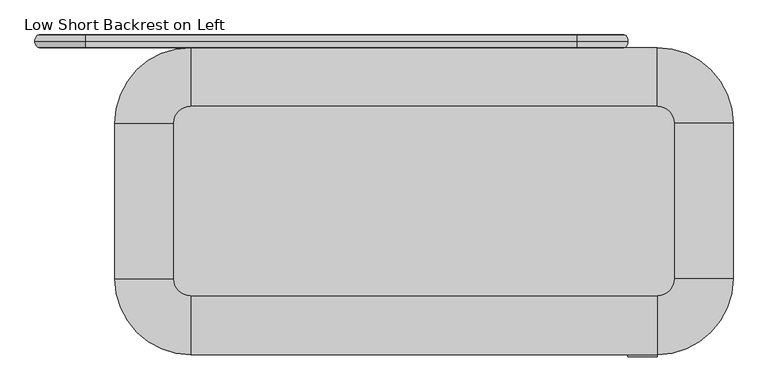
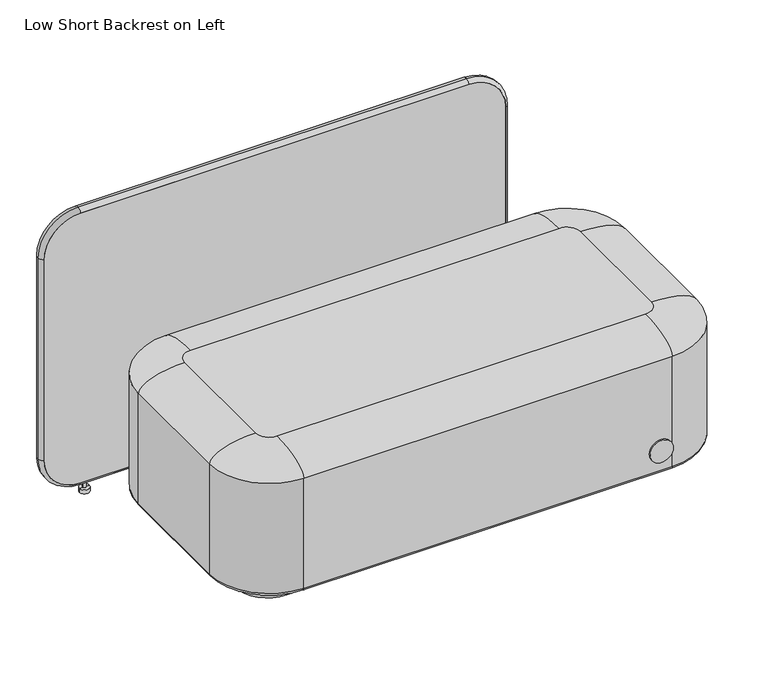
"""IFC4 building model written with IfcOpenShell, lengths in millimetres: furniture geometry, PODLounge  : Low Short Backrest on Left."""

from ifc_helpers import new_model, si_unit, point, frame, frame_2d, origin, origin_with_axes, place, context, project, spatial, polyline, circle_curve, ellipse_curve, trimmed, segment, composite_curve, outline, extrude, source, transform, mapped, element, save
from ifc_brep_helpers import plane_surface, cylinder_surface, revolved_surface, extruded_surface, advanced_brep


def low_short_backrest_on_left_eda2dfa0(model_context):
    return source(origin(), model_context, "Body", "SolidModel", [
        advanced_brep(
        [(-769.9999916, 380.0, 12.0), (-800.0000084, 380.0, 12.0), (-790.0, 380.0, 12.0), (-780.0, 380.0, 12.0), (-790.0, 380.0, 37.4784241), (-780.0, 380.0, 37.4784241), (-785.0, 380.0, 37.4784241), (-785.0, 380.0, 0.0), (-800.0000084, 380.0, 0.0), (-769.9999916, 380.0, 0.0)],
        [
            (0, 1, circle_curve(frame((-785.0, 380.0, 12.0), z_axis=(0.0, 0.0, 1.0), x_axis=(-1.0, 0.0, 0.0)), 15.0000084)),
            (1, 2),
            (2, 3, circle_curve(frame((-785.0, 380.0, 12.0), z_axis=(0.0, 0.0, -1.0), x_axis=(-1.0, 0.0, 0.0)), 5.0)),
            (3, 0),
            (1, 0, circle_curve(frame((-785.0, 380.0, 12.0), z_axis=(0.0, 0.0, 1.0), x_axis=(-1.0, 0.0, 0.0)), 15.0000084)),
            (3, 2, circle_curve(frame((-785.0, 380.0, 12.0), z_axis=(0.0, 0.0, -1.0), x_axis=(-1.0, 0.0, 0.0)), 5.0)),
            (2, 4),
            (4, 5, circle_curve(frame((-785.0, 380.0, 37.4784241), z_axis=(0.0, 0.0, -1.0), x_axis=(-1.0, 0.0, 0.0)), 5.0)),
            (5, 3),
            (5, 4, circle_curve(frame((-785.0, 380.0, 37.4784241), z_axis=(0.0, 0.0, -1.0), x_axis=(-1.0, 0.0, 0.0)), 5.0)),
            (4, 6),
            (6, 5),
            (7, 8),
            (8, 9, circle_curve(frame((-785.0, 380.0, 0.0), z_axis=(0.0, 0.0, -1.0), x_axis=(-1.0, 0.0, 0.0)), 15.0000084)),
            (9, 7),
            (9, 8, circle_curve(frame((-785.0, 380.0, 0.0), z_axis=(0.0, 0.0, -1.0), x_axis=(-1.0, 0.0, 0.0)), 15.0000084)),
            (8, 1),
            (0, 9),
        ],
        [
            plane_surface(frame((-785.0, 380.0, 12.0), z_axis=(0.0, 0.0, 1.0), x_axis=(-1.0, 0.0, 0.0))),
            cylinder_surface(frame((-785.0, 380.0, 37.4784241), z_axis=(0.0, 0.0, -1.0), x_axis=(-1.0, 0.0, 0.0)), 5.0),
            plane_surface(frame((-785.0, 380.0, 37.4784241), z_axis=(0.0, 0.0, 1.0), x_axis=(-1.0, 0.0, 0.0))),
            plane_surface(frame((-785.0, 380.0, 0.0), z_axis=(0.0, 0.0, -1.0), x_axis=(-1.0, 0.0, 0.0))),
            cylinder_surface(frame((-785.0, 380.0, 37.4784241), z_axis=(0.0, 0.0, -1.0), x_axis=(-1.0, 0.0, 0.0)), 15.0000084),
        ],
        [
            (0, [[1, 2, 3, 4]]),
            (0, [[5, -4, 6, -2]]),
            (1, [[-3, 7, 8, 9]]),
            (1, [[-6, -9, 10, -7]]),
            (2, [[-8, 11, 12]]),
            (2, [[-10, -12, -11]]),
            (3, [[13, 14, 15]]),
            (3, [[-15, 16, -13]]),
            (4, [[-14, 17, -1, 18]]),
            (4, [[-16, -18, -5, -17]]),
        ],
    ),
        advanced_brep(
        [(329.9999916, 380.0, 12.0), (340.0, 380.0, 12.0), (350.0, 380.0, 12.0), (360.0000084, 380.0, 12.0), (340.0, 380.0, 37.4784241), (350.0, 380.0, 37.4784241), (345.0, 380.0, 37.4784241), (345.0, 380.0, 0.0), (329.9999916, 380.0, 0.0), (360.0000084, 380.0, 0.0)],
        [
            (0, 1),
            (1, 2, circle_curve(frame((345.0, 380.0, 12.0), z_axis=(0.0, 0.0, -1.0), x_axis=(1.0, 0.0, 0.0)), 5.0)),
            (2, 3),
            (3, 0, circle_curve(frame((345.0, 380.0, 12.0), z_axis=(0.0, 0.0, 1.0), x_axis=(1.0, 0.0, 0.0)), 15.0000084)),
            (2, 1, circle_curve(frame((345.0, 380.0, 12.0), z_axis=(0.0, 0.0, -1.0), x_axis=(1.0, 0.0, 0.0)), 5.0)),
            (0, 3, circle_curve(frame((345.0, 380.0, 12.0), z_axis=(0.0, 0.0, 1.0), x_axis=(1.0, 0.0, 0.0)), 15.0000084)),
            (1, 4),
            (4, 5, circle_curve(frame((345.0, 380.0, 37.4784241), z_axis=(0.0, 0.0, -1.0), x_axis=(1.0, 0.0, 0.0)), 5.0)),
            (5, 2),
            (5, 4, circle_curve(frame((345.0, 380.0, 37.4784241), z_axis=(0.0, 0.0, -1.0), x_axis=(1.0, 0.0, 0.0)), 5.0)),
            (4, 6),
            (6, 5),
            (7, 8),
            (8, 9, circle_curve(frame((345.0, 380.0, 0.0), z_axis=(0.0, 0.0, -1.0), x_axis=(1.0, 0.0, 0.0)), 15.0000084)),
            (9, 7),
            (9, 8, circle_curve(frame((345.0, 380.0, 0.0), z_axis=(0.0, 0.0, -1.0), x_axis=(1.0, 0.0, 0.0)), 15.0000084)),
            (8, 0),
            (3, 9),
        ],
        [
            plane_surface(frame((345.0, 380.0, 12.0), z_axis=(0.0, 0.0, 1.0), x_axis=(1.0, 0.0, 0.0))),
            cylinder_surface(frame((345.0, 380.0, 37.4784241), z_axis=(0.0, 0.0, -1.0), x_axis=(1.0, 0.0, 0.0)), 5.0),
            plane_surface(frame((345.0, 380.0, 37.4784241), z_axis=(0.0, 0.0, 1.0), x_axis=(1.0, 0.0, 0.0))),
            plane_surface(frame((345.0, 380.0, 0.0), z_axis=(0.0, 0.0, -1.0), x_axis=(1.0, 0.0, 0.0))),
            cylinder_surface(frame((345.0, 380.0, 37.4784241), z_axis=(0.0, 0.0, -1.0), x_axis=(1.0, 0.0, 0.0)), 15.0000084),
        ],
        [
            (0, [[1, 2, 3, 4]]),
            (0, [[-3, 5, -1, 6]]),
            (1, [[7, 8, 9, -2]]),
            (1, [[-9, 10, -7, -5]]),
            (2, [[11, 12, -8]]),
            (2, [[-12, -11, -10]]),
            (3, [[13, 14, 15]]),
            (3, [[-15, 16, -13]]),
            (4, [[17, -4, 18, -14]]),
            (4, [[-18, -6, -17, -16]]),
        ],
    ),
        advanced_brep(
        [(475.0, 395.0, 790.0), (475.0, 365.0, 790.0), (365.0, 365.0, 900.0), (365.0, 395.0, 900.0), (475.0, 395.0, 150.0), (475.0, 365.0, 150.0), (365.0, 395.0, 40.0), (365.0, 365.0, 40.0), (-805.0, 395.0, 40.0), (-805.0, 365.0, 40.0), (-915.0, 395.0, 150.0), (-915.0, 365.0, 150.0), (-915.0, 395.0, 790.0), (-915.0, 365.0, 790.0), (-805.0, 395.0, 900.0), (-805.0, 365.0, 900.0), (484.9992342, 379.8143612, 790.0), (365.0, 379.8143612, 909.9992342), (484.9992342, 379.8143612, 150.0), (365.0, 379.8143612, 30.0007658), (-805.0, 379.8143612, 30.0007658), (-924.9992342, 379.8143612, 150.0), (-924.9992342, 379.8143612, 790.0), (-805.0, 379.8143612, 909.9992342)],
        [
            (0, 1),
            (1, 2, circle_curve(frame((365.0, 365.0, 790.0), z_axis=(0.0, -1.0, 0.0), x_axis=(0.0, 0.0, 1.0)), 110.0)),
            (2, 3),
            (3, 0, circle_curve(frame((365.0, 395.0, 790.0), z_axis=(0.0, 1.0, 0.0), x_axis=(0.0, 0.0, 1.0)), 110.0)),
            (0, 4),
            (4, 5),
            (5, 1),
            (6, 7),
            (7, 5, circle_curve(frame((365.0, 365.0, 150.0), z_axis=(0.0, -1.0, 0.0), x_axis=(1.0, 0.0, 0.0)), 110.0)),
            (4, 6, circle_curve(frame((365.0, 395.0, 150.0), z_axis=(0.0, 1.0, 0.0), x_axis=(1.0, 0.0, 0.0)), 110.0)),
            (6, 8),
            (8, 9),
            (9, 7),
            (10, 11),
            (11, 9, circle_curve(frame((-805.0, 365.0, 150.0), z_axis=(0.0, -1.0, 0.0), x_axis=(0.0, 0.0, -1.0)), 110.0)),
            (8, 10, circle_curve(frame((-805.0, 395.0, 150.0), z_axis=(0.0, 1.0, 0.0), x_axis=(0.0, 0.0, -1.0)), 110.0)),
            (10, 12),
            (12, 13),
            (13, 11),
            (14, 15),
            (15, 13, circle_curve(frame((-805.0, 365.0, 790.0), z_axis=(0.0, -1.0, 0.0), x_axis=(-1.0, 0.0, 0.0)), 110.0)),
            (12, 14, circle_curve(frame((-805.0, 395.0, 790.0), z_axis=(0.0, 1.0, 0.0), x_axis=(-1.0, 0.0, 0.0)), 110.0)),
            (14, 3),
            (2, 15),
            (16, 0, ellipse_curve(frame((475.0, 380.0, 790.0), z_axis=(0.0, 0.0, 1.0), x_axis=(0.0, 1.0, 0.0)), 15.0, 10.0)),
            (3, 17, ellipse_curve(frame((365.0, 380.0, 900.0), z_axis=(1.0, 0.0, 0.0), x_axis=(0.0, 1.0, 0.0)), 15.0, 10.0)),
            (17, 16, circle_curve(frame((365.0, 379.8143612, 790.0), z_axis=(0.0, 1.0, 0.0), x_axis=(0.0, 0.0, 1.0)), 119.9992342)),
            (1, 16, ellipse_curve(frame((475.0, 380.0, 790.0), z_axis=(0.0, 0.0, 1.0), x_axis=(0.0, 1.0, 0.0)), 15.0, 10.0)),
            (17, 2, ellipse_curve(frame((365.0, 380.0, 900.0), z_axis=(1.0, 0.0, 0.0), x_axis=(0.0, 1.0, 0.0)), 15.0, 10.0)),
            (16, 18),
            (18, 4, ellipse_curve(frame((475.0, 380.0, 150.0), z_axis=(0.0, 0.0, 1.0), x_axis=(0.0, 1.0, 0.0)), 15.0, 10.0)),
            (5, 18, ellipse_curve(frame((475.0, 380.0, 150.0), z_axis=(0.0, 0.0, 1.0), x_axis=(0.0, 1.0, 0.0)), 15.0, 10.0)),
            (19, 6, ellipse_curve(frame((365.0, 380.0, 40.0), z_axis=(1.0, 0.0, 0.0), x_axis=(0.0, 1.0, 0.0)), 15.0, 10.0)),
            (18, 19, circle_curve(frame((365.0, 379.8143612, 150.0), z_axis=(0.0, 1.0, 0.0), x_axis=(1.0, 0.0, 0.0)), 119.9992342)),
            (7, 19, ellipse_curve(frame((365.0, 380.0, 40.0), z_axis=(1.0, 0.0, 0.0), x_axis=(0.0, 1.0, 0.0)), 15.0, 10.0)),
            (19, 20),
            (20, 8, ellipse_curve(frame((-805.0, 380.0, 40.0), z_axis=(1.0, 0.0, 0.0), x_axis=(0.0, 1.0, 0.0)), 15.0, 10.0)),
            (9, 20, ellipse_curve(frame((-805.0, 380.0, 40.0), z_axis=(1.0, 0.0, 0.0), x_axis=(0.0, 1.0, 0.0)), 15.0, 10.0)),
            (21, 10, ellipse_curve(frame((-915.0, 380.0, 150.0), z_axis=(0.0, 0.0, -1.0), x_axis=(0.0, 1.0, 0.0)), 15.0, 10.0)),
            (20, 21, circle_curve(frame((-805.0, 379.8143612, 150.0), z_axis=(0.0, 1.0, 0.0), x_axis=(0.0, 0.0, -1.0)), 119.9992342)),
            (11, 21, ellipse_curve(frame((-915.0, 380.0, 150.0), z_axis=(0.0, 0.0, -1.0), x_axis=(0.0, 1.0, 0.0)), 15.0, 10.0)),
            (21, 22),
            (22, 12, ellipse_curve(frame((-915.0, 380.0, 790.0), z_axis=(0.0, 0.0, -1.0), x_axis=(0.0, 1.0, 0.0)), 15.0, 10.0)),
            (13, 22, ellipse_curve(frame((-915.0, 380.0, 790.0), z_axis=(0.0, 0.0, -1.0), x_axis=(0.0, 1.0, 0.0)), 15.0, 10.0)),
            (23, 14, ellipse_curve(frame((-805.0, 380.0, 900.0), z_axis=(-1.0, 0.0, 0.0), x_axis=(0.0, 1.0, 0.0)), 15.0, 10.0)),
            (22, 23, circle_curve(frame((-805.0, 379.8143612, 790.0), z_axis=(0.0, 1.0, 0.0), x_axis=(-1.0, 0.0, 0.0)), 119.9992342)),
            (15, 23, ellipse_curve(frame((-805.0, 380.0, 900.0), z_axis=(-1.0, 0.0, 0.0), x_axis=(0.0, 1.0, 0.0)), 15.0, 10.0)),
            (23, 17),
        ],
        [
            revolved_surface(polyline([(365.0, 365.0, 900.0), (365.0, 395.0, 900.0)]), (365.0, 395.0, 790.0), (0.0, -1.0, 0.0)),
            plane_surface(frame((475.0, 365.0, 790.0), z_axis=(-1.0, 0.0, 0.0), x_axis=(0.0, 0.0, -1.0))),
            revolved_surface(polyline([(475.0, 365.0, 150.0), (475.0, 395.0, 150.0)]), (365.0, 395.0, 150.0), (0.0, -1.0, 0.0)),
            plane_surface(frame((365.0, 365.0, 40.0), z_axis=(0.0, 0.0, 1.0), x_axis=(-1.0, 0.0, 0.0))),
            revolved_surface(polyline([(-805.0, 365.0, 40.0), (-805.0, 395.0, 40.0)]), (-805.0, 395.0, 150.0), (0.0, -1.0, 0.0)),
            plane_surface(frame((-915.0, 365.0, 150.0), z_axis=(1.0, 0.0, 0.0), x_axis=(0.0, 0.0, 1.0))),
            revolved_surface(polyline([(-915.0, 365.0, 790.0), (-915.0, 395.0, 790.0)]), (-805.0, 395.0, 790.0), (0.0, -1.0, 0.0)),
            plane_surface(frame((-805.0, 365.0, 900.0), z_axis=(0.0, 0.0, -1.0), x_axis=(1.0, 0.0, 0.0))),
            revolved_surface(trimmed(ellipse_curve(frame((365.0, 380.0, 900.0), z_axis=(1.0, 0.0, 0.0), x_axis=(0.0, 1.0, 0.0)), 15.0, 10.0), [point((365.0, 395.0, 900.0))], [point((365.0, 379.8143612, 909.9992342))], True, "CARTESIAN"), (365.0, 395.0, 790.0), (0.0, -1.0, 0.0)),
            revolved_surface(trimmed(ellipse_curve(frame((365.0, 380.0, 900.0), z_axis=(1.0, 0.0, 0.0), x_axis=(0.0, 1.0, 0.0)), 15.0, 10.0), [point((365.0, 379.8143612, 909.9992342))], [point((365.0, 365.0, 900.0))], True, "CARTESIAN"), (365.0, 395.0, 790.0), (0.0, -1.0, 0.0)),
            extruded_surface(trimmed(ellipse_curve(frame((475.0, 380.0, 790.0), z_axis=(0.0, 0.0, -1.0), x_axis=(0.0, 1.0, 0.0)), 15.0, 10.0), [point((475.0, 395.0, 790.0))], [point((484.9992342, 379.8143612, 790.0))], True, "CARTESIAN"), (0.0, 0.0, -640.0), 640.0),
            extruded_surface(trimmed(ellipse_curve(frame((475.0, 380.0, 790.0), z_axis=(0.0, 0.0, -1.0), x_axis=(0.0, 1.0, 0.0)), 15.0, 10.0), [point((484.9992342, 379.8143612, 790.0))], [point((475.0, 365.0, 790.0))], True, "CARTESIAN"), (0.0, 0.0, -640.0), 640.0),
            revolved_surface(trimmed(ellipse_curve(frame((475.0, 380.0, 150.0), z_axis=(0.0, 0.0, -1.0), x_axis=(0.0, 1.0, 0.0)), 15.0, 10.0), [point((475.0, 395.0, 150.0))], [point((484.9992342, 379.8143612, 150.0))], True, "CARTESIAN"), (365.0, 395.0, 150.0), (0.0, -1.0, 0.0)),
            revolved_surface(trimmed(ellipse_curve(frame((475.0, 380.0, 150.0), z_axis=(0.0, 0.0, -1.0), x_axis=(0.0, 1.0, 0.0)), 15.0, 10.0), [point((484.9992342, 379.8143612, 150.0))], [point((475.0, 365.0, 150.0))], True, "CARTESIAN"), (365.0, 395.0, 150.0), (0.0, -1.0, 0.0)),
            extruded_surface(trimmed(ellipse_curve(frame((365.0, 380.0, 40.0), z_axis=(-1.0, 0.0, 0.0), x_axis=(0.0, 1.0, 0.0)), 15.0, 10.0), [point((365.0, 395.0, 40.0))], [point((365.0, 379.8143612, 30.0007658))], True, "CARTESIAN"), (-1170.0, 0.0, 0.0), 1170.0),
            extruded_surface(trimmed(ellipse_curve(frame((365.0, 380.0, 40.0), z_axis=(-1.0, 0.0, 0.0), x_axis=(0.0, 1.0, 0.0)), 15.0, 10.0), [point((365.0, 379.8143612, 30.0007658))], [point((365.0, 365.0, 40.0))], True, "CARTESIAN"), (-1170.0, 0.0, 0.0), 1170.0),
            revolved_surface(trimmed(ellipse_curve(frame((-805.0, 380.0, 40.0), z_axis=(-1.0, 0.0, 0.0), x_axis=(0.0, 1.0, 0.0)), 15.0, 10.0), [point((-805.0, 395.0, 40.0))], [point((-805.0, 379.8143612, 30.0007658))], True, "CARTESIAN"), (-805.0, 395.0, 150.0), (0.0, -1.0, 0.0)),
            revolved_surface(trimmed(ellipse_curve(frame((-805.0, 380.0, 40.0), z_axis=(-1.0, 0.0, 0.0), x_axis=(0.0, 1.0, 0.0)), 15.0, 10.0), [point((-805.0, 379.8143612, 30.0007658))], [point((-805.0, 365.0, 40.0))], True, "CARTESIAN"), (-805.0, 395.0, 150.0), (0.0, -1.0, 0.0)),
            extruded_surface(trimmed(ellipse_curve(frame((-915.0, 380.0, 150.0), z_axis=(0.0, 0.0, 1.0), x_axis=(0.0, 1.0, 0.0)), 15.0, 10.0), [point((-915.0, 395.0, 150.0))], [point((-924.9992342, 379.8143612, 150.0))], True, "CARTESIAN"), (0.0, 0.0, 640.0), 640.0),
            extruded_surface(trimmed(ellipse_curve(frame((-915.0, 380.0, 150.0), z_axis=(0.0, 0.0, 1.0), x_axis=(0.0, 1.0, 0.0)), 15.0, 10.0), [point((-924.9992342, 379.8143612, 150.0))], [point((-915.0, 365.0, 150.0))], True, "CARTESIAN"), (0.0, 0.0, 640.0), 640.0),
            revolved_surface(trimmed(ellipse_curve(frame((-915.0, 380.0, 790.0), z_axis=(0.0, 0.0, 1.0), x_axis=(0.0, 1.0, 0.0)), 15.0, 10.0), [point((-915.0, 395.0, 790.0))], [point((-924.9992342, 379.8143612, 790.0))], True, "CARTESIAN"), (-805.0, 395.0, 790.0), (0.0, -1.0, 0.0)),
            revolved_surface(trimmed(ellipse_curve(frame((-915.0, 380.0, 790.0), z_axis=(0.0, 0.0, 1.0), x_axis=(0.0, 1.0, 0.0)), 15.0, 10.0), [point((-924.9992342, 379.8143612, 790.0))], [point((-915.0, 365.0, 790.0))], True, "CARTESIAN"), (-805.0, 395.0, 790.0), (0.0, -1.0, 0.0)),
            extruded_surface(trimmed(ellipse_curve(frame((-805.0, 380.0, 900.0), z_axis=(1.0, 0.0, 0.0), x_axis=(0.0, 1.0, 0.0)), 15.0, 10.0), [point((-805.0, 395.0, 900.0))], [point((-805.0, 379.8143612, 909.9992342))], True, "CARTESIAN"), (1170.0, 0.0, 0.0), 1170.0),
            extruded_surface(trimmed(ellipse_curve(frame((-805.0, 380.0, 900.0), z_axis=(1.0, 0.0, 0.0), x_axis=(0.0, 1.0, 0.0)), 15.0, 10.0), [point((-805.0, 379.8143612, 909.9992342))], [point((-805.0, 365.0, 900.0))], True, "CARTESIAN"), (1170.0, 0.0, 0.0), 1170.0),
        ],
        [
            (0, [[1, 2, 3, 4]]),
            (1, [[5, 6, 7, -1]]),
            (2, [[8, 9, -6, 10]]),
            (3, [[11, 12, 13, -8]]),
            (4, [[14, 15, -12, 16]]),
            (5, [[17, 18, 19, -14]]),
            (6, [[20, 21, -18, 22]]),
            (7, [[23, -3, 24, -20]]),
            (8, [[25, -4, 26, 27]]),
            (9, [[28, -27, 29, -2]]),
            (10, [[30, 31, -5, -25]]),
            (11, [[-7, 32, -30, -28]]),
            (12, [[33, -10, -31, 34]]),
            (13, [[35, -34, -32, -9]]),
            (14, [[36, 37, -11, -33]]),
            (15, [[-13, 38, -36, -35]]),
            (16, [[39, -16, -37, 40]]),
            (17, [[41, -40, -38, -15]]),
            (18, [[42, 43, -17, -39]]),
            (19, [[-19, 44, -42, -41]]),
            (20, [[45, -22, -43, 46]]),
            (21, [[47, -46, -44, -21]]),
            (22, [[48, -26, -23, -45]]),
            (23, [[-24, -29, -48, -47]]),
        ],
    ),
        extrude(outline(composite_curve([segment(polyline([(900.0, 365.0), (900.0, -805.0)]), True, "CONTINUOUS"), segment(trimmed(circle_curve(frame_2d((790.0, -805.0)), 110.0), [point((900.0, -805.0))], [point((790.0, -915.0))], False, "CARTESIAN"), True, "CONTINUOUS"), segment(polyline([(790.0, -915.0), (150.0, -915.0)]), True, "CONTINUOUS"), segment(trimmed(circle_curve(frame_2d((150.0, -805.0)), 110.0), [point((150.0, -915.0))], [point((40.0, -805.0))], False, "CARTESIAN"), True, "CONTINUOUS"), segment(polyline([(40.0, -805.0), (40.0, 365.0)]), True, "CONTINUOUS"), segment(trimmed(circle_curve(frame_2d((150.0, 365.0)), 110.0), [point((40.0, 365.0))], [point((150.0, 475.0))], False, "CARTESIAN"), True, "CONTINUOUS"), segment(polyline([(150.0, 475.0), (790.0, 475.0)]), True, "CONTINUOUS"), segment(trimmed(circle_curve(frame_2d((790.0, 365.0)), 110.0), [point((790.0, 475.0))], [point((900.0, 365.0))], False, "CARTESIAN"), True, "CONTINUOUS")], self_intersect=False)), frame((0.0, 365.0, 0.0), z_axis=(0.0, 1.0, 0.0), x_axis=(0.0, 0.0, 1.0)), (0.0, 0.0, 1.0), 30.0),
        advanced_brep(
        [(-555.0, 225.0, 460.0), (-595.0, 185.0, 460.0), (-595.0, -185.0, 460.0), (-555.0, -225.0, 460.0), (555.0, -225.0, 460.0), (595.0, -185.0, 460.0), (595.0, 185.0, 460.0), (555.0, 225.0, 460.0), (-725.0, 185.0, 50.0), (-555.0, 355.0, 50.0), (555.0, 355.0, 50.0), (725.0, 185.0, 50.0), (725.0, -185.0, 50.0), (555.0, -355.0, 50.0), (-555.0, -355.0, 50.0), (-725.0, -185.0, 50.0), (555.0, -365.0, 410.0), (555.0, -365.0, 60.0), (735.0, -185.0, 60.0), (735.0, -185.0, 410.0), (735.0, 185.0, 60.0), (735.0, 185.0, 410.0), (555.0, 365.0, 60.0), (555.0, 365.0, 410.0), (-555.0, 365.0, 60.0), (-555.0, 365.0, 410.0), (-735.0, 185.0, 410.0), (-735.0, 185.0, 60.0), (-735.0, -185.0, 60.0), (-735.0, -185.0, 410.0), (-555.0, -365.0, 410.0), (-555.0, -365.0, 60.0)],
        [
            (0, 1, circle_curve(frame((-555.0, 185.0, 460.0), z_axis=(0.0, 0.0, 1.0), x_axis=(0.0, 1.0, 0.0)), 40.0)),
            (1, 2),
            (2, 3, circle_curve(frame((-555.0, -185.0, 460.0), z_axis=(0.0, 0.0, 1.0), x_axis=(-1.0, 0.0, 0.0)), 40.0)),
            (3, 4),
            (4, 5, circle_curve(frame((555.0, -185.0, 460.0), z_axis=(0.0, 0.0, 1.0), x_axis=(0.0, -1.0, 0.0)), 40.0)),
            (5, 6),
            (6, 7, circle_curve(frame((555.0, 185.0, 460.0), z_axis=(0.0, 0.0, 1.0), x_axis=(1.0, 0.0, 0.0)), 40.0)),
            (7, 0),
            (8, 9, circle_curve(frame((-555.0, 185.0, 50.0), z_axis=(0.0, 0.0, -1.0), x_axis=(0.0, 1.0, 0.0)), 170.0)),
            (9, 10),
            (10, 11, circle_curve(frame((555.0, 185.0, 50.0), z_axis=(0.0, 0.0, -1.0), x_axis=(1.0, 0.0, 0.0)), 170.0)),
            (11, 12),
            (12, 13, circle_curve(frame((555.0, -185.0, 50.0), z_axis=(0.0, 0.0, -1.0), x_axis=(0.0, -1.0, 0.0)), 170.0)),
            (13, 14),
            (14, 15, circle_curve(frame((-555.0, -185.0, 50.0), z_axis=(0.0, 0.0, -1.0), x_axis=(-1.0, 0.0, 0.0)), 170.0)),
            (15, 8),
            (16, 17),
            (17, 18, circle_curve(frame((555.0, -185.0, 60.0), z_axis=(0.0, 0.0, 1.0), x_axis=(1.0, 0.0, 0.0)), 180.0)),
            (18, 19),
            (19, 16, circle_curve(frame((555.0, -185.0, 410.0), z_axis=(0.0, 0.0, -1.0), x_axis=(1.0, 0.0, 0.0)), 180.0)),
            (18, 20),
            (20, 21),
            (21, 19),
            (20, 22, circle_curve(frame((555.0, 185.0, 60.0), z_axis=(0.0, 0.0, 1.0), x_axis=(1.0, 0.0, 0.0)), 180.0)),
            (22, 23),
            (23, 21, circle_curve(frame((555.0, 185.0, 410.0), z_axis=(0.0, 0.0, -1.0), x_axis=(1.0, 0.0, 0.0)), 180.0)),
            (22, 24),
            (24, 25),
            (25, 23),
            (26, 27),
            (27, 28),
            (28, 29),
            (29, 26),
            (16, 30),
            (30, 31),
            (31, 17),
            (26, 25, circle_curve(frame((-555.0, 185.0, 410.0), z_axis=(0.0, 0.0, -1.0), x_axis=(1.0, 0.0, 0.0)), 180.0)),
            (24, 27, circle_curve(frame((-555.0, 185.0, 60.0), z_axis=(0.0, 0.0, 1.0), x_axis=(1.0, 0.0, 0.0)), 180.0)),
            (30, 29, circle_curve(frame((-555.0, -185.0, 410.0), z_axis=(0.0, 0.0, -1.0), x_axis=(1.0, 0.0, 0.0)), 180.0)),
            (28, 31, circle_curve(frame((-555.0, -185.0, 60.0), z_axis=(0.0, 0.0, 1.0), x_axis=(1.0, 0.0, 0.0)), 180.0)),
            (26, 1, ellipse_curve(frame((-595.0, 185.0, 410.0), z_axis=(0.0, 1.0, 0.0), x_axis=(-1.0, 0.0, 0.0)), 140.0, 50.0)),
            (0, 25, ellipse_curve(frame((-555.0, 225.0, 410.0), z_axis=(-1.0, 0.0, 0.0), x_axis=(0.0, 1.0, 0.0)), 140.0, 50.0)),
            (29, 2, ellipse_curve(frame((-595.0, -185.0, 410.0), z_axis=(0.0, 1.0, 0.0), x_axis=(-1.0, 0.0, 0.0)), 140.0, 50.0)),
            (30, 3, ellipse_curve(frame((-555.0, -225.0, 410.0), z_axis=(-1.0, 0.0, 0.0), x_axis=(0.0, -1.0, 0.0)), 140.0, 50.0)),
            (16, 4, ellipse_curve(frame((555.0, -225.0, 410.0), z_axis=(-1.0, 0.0, 0.0), x_axis=(0.0, -1.0, 0.0)), 140.0, 50.0)),
            (19, 5, ellipse_curve(frame((595.0, -185.0, 410.0), z_axis=(0.0, -1.0, 0.0), x_axis=(1.0, 0.0, 0.0)), 140.0, 50.0)),
            (21, 6, ellipse_curve(frame((595.0, 185.0, 410.0), z_axis=(0.0, -1.0, 0.0), x_axis=(1.0, 0.0, 0.0)), 140.0, 50.0)),
            (23, 7, ellipse_curve(frame((555.0, 225.0, 410.0), z_axis=(1.0, 0.0, 0.0), x_axis=(0.0, 1.0, 0.0)), 140.0, 50.0)),
            (8, 27, circle_curve(frame((-725.0, 185.0, 60.0), z_axis=(0.0, 1.0, 0.0), x_axis=(1.0, 0.0, 0.0)), 10.0)),
            (24, 9, circle_curve(frame((-555.0, 355.0, 60.0), z_axis=(-1.0, 0.0, 0.0), x_axis=(0.0, -1.0, 0.0)), 10.0)),
            (15, 28, circle_curve(frame((-725.0, -185.0, 60.0), z_axis=(0.0, 1.0, 0.0), x_axis=(1.0, 0.0, 0.0)), 10.0)),
            (14, 31, circle_curve(frame((-555.0, -355.0, 60.0), z_axis=(-1.0, 0.0, 0.0), x_axis=(0.0, 1.0, 0.0)), 10.0)),
            (13, 17, circle_curve(frame((555.0, -355.0, 60.0), z_axis=(-1.0, 0.0, 0.0), x_axis=(0.0, 1.0, 0.0)), 10.0)),
            (12, 18, circle_curve(frame((725.0, -185.0, 60.0), z_axis=(0.0, -1.0, 0.0), x_axis=(-1.0, 0.0, 0.0)), 10.0)),
            (11, 20, circle_curve(frame((725.0, 185.0, 60.0), z_axis=(0.0, -1.0, 0.0), x_axis=(-1.0, 0.0, 0.0)), 10.0)),
            (10, 22, circle_curve(frame((555.0, 355.0, 60.0), z_axis=(1.0, 0.0, 0.0), x_axis=(0.0, -1.0, 0.0)), 10.0)),
        ],
        [
            plane_surface(frame((735.0, -185.0, 460.0), z_axis=(0.0, 0.0, 1.0), x_axis=(0.0, 1.0, 0.0))),
            plane_surface(frame((735.0, -185.0, 50.0), z_axis=(0.0, 0.0, -1.0), x_axis=(0.0, -1.0, 0.0))),
            cylinder_surface(frame((555.0, -185.0, 50.0), z_axis=(0.0, 0.0, 1.0), x_axis=(1.0, 0.0, 0.0)), 180.0),
            plane_surface(frame((735.0, -185.0, 460.0), z_axis=(1.0, 0.0, 0.0), x_axis=(0.0, 0.0, -1.0))),
            cylinder_surface(frame((555.0, 185.0, 50.0), z_axis=(0.0, 0.0, 1.0), x_axis=(1.0, 0.0, 0.0)), 180.0),
            plane_surface(frame((555.0, 365.0, 460.0), z_axis=(0.0, 1.0, 0.0), x_axis=(0.0, 0.0, -1.0))),
            plane_surface(frame((-735.0, 185.0, 460.0), z_axis=(-1.0, 0.0, 0.0), x_axis=(0.0, 0.0, -1.0))),
            plane_surface(frame((-555.0, -365.0, 460.0), z_axis=(0.0, -1.0, 0.0), x_axis=(0.0, 0.0, -1.0))),
            cylinder_surface(frame((-555.0, 185.0, 50.0), z_axis=(0.0, 0.0, 1.0), x_axis=(1.0, 0.0, 0.0)), 180.0),
            cylinder_surface(frame((-555.0, -185.0, 50.0), z_axis=(0.0, 0.0, 1.0), x_axis=(1.0, 0.0, 0.0)), 180.0),
            revolved_surface(trimmed(ellipse_curve(frame((-555.0, 225.0, 410.0), z_axis=(1.0, 0.0, 0.0), x_axis=(0.0, 1.0, 0.0)), 140.0, 50.0), [point((-555.0, 365.0, 410.0))], [point((-555.0, 225.0, 460.0))], True, "CARTESIAN"), (-555.0, 185.0, 0.0), (0.0, 0.0, 1.0)),
            extruded_surface(trimmed(ellipse_curve(frame((-595.0, 185.0, 410.0), z_axis=(0.0, -1.0, 0.0), x_axis=(-1.0, 0.0, 0.0)), 140.0, 50.0), [point((-595.0, 185.0, 460.0))], [point((-735.0, 185.0, 410.0))], True, "CARTESIAN"), (0.0, -370.0, 0.0), 370.0),
            revolved_surface(trimmed(ellipse_curve(frame((-595.0, -185.0, 410.0), z_axis=(0.0, 1.0, 0.0), x_axis=(-1.0, 0.0, 0.0)), 140.0, 50.0), [point((-735.0, -185.0, 410.0))], [point((-595.0, -185.0, 460.0))], True, "CARTESIAN"), (-555.0, -185.0, 0.0), (0.0, 0.0, 1.0)),
            extruded_surface(trimmed(ellipse_curve(frame((-555.0, -225.0, 410.0), z_axis=(1.0, 0.0, 0.0), x_axis=(0.0, -1.0, 0.0)), 140.0, 50.0), [point((-555.0, -225.0, 460.0))], [point((-555.0, -365.0, 410.0))], True, "CARTESIAN"), (1110.0, 0.0, 0.0), 1110.0),
            revolved_surface(trimmed(ellipse_curve(frame((555.0, -225.0, 410.0), z_axis=(-1.0, 0.0, 0.0), x_axis=(0.0, -1.0, 0.0)), 140.0, 50.0), [point((555.0, -365.0, 410.0))], [point((555.0, -225.0, 460.0))], True, "CARTESIAN"), (555.0, -185.0, 0.0), (0.0, 0.0, 1.0)),
            extruded_surface(trimmed(ellipse_curve(frame((595.0, -185.0, 410.0), z_axis=(0.0, 1.0, 0.0), x_axis=(1.0, 0.0, 0.0)), 140.0, 50.0), [point((595.0, -185.0, 460.0))], [point((735.0, -185.0, 410.0))], True, "CARTESIAN"), (0.0, 370.0, 0.0), 370.0),
            revolved_surface(trimmed(ellipse_curve(frame((595.0, 185.0, 410.0), z_axis=(0.0, -1.0, 0.0), x_axis=(1.0, 0.0, 0.0)), 140.0, 50.0), [point((735.0, 185.0, 410.0))], [point((595.0, 185.0, 460.0))], True, "CARTESIAN"), (555.0, 185.0, 0.0), (0.0, 0.0, 1.0)),
            extruded_surface(trimmed(ellipse_curve(frame((555.0, 225.0, 410.0), z_axis=(-1.0, 0.0, 0.0), x_axis=(0.0, 1.0, 0.0)), 140.0, 50.0), [point((555.0, 225.0, 460.0))], [point((555.0, 365.0, 410.0))], True, "CARTESIAN"), (-1110.0, 0.0, 0.0), 1110.0),
            revolved_surface(trimmed(ellipse_curve(frame((-555.0, 355.0, 60.0), z_axis=(1.0, 0.0, 0.0), x_axis=(0.0, -1.0, 0.0)), 10.0, 10.0), [point((-555.0, 355.0, 50.0))], [point((-555.0, 365.0, 60.0))], True, "CARTESIAN"), (-555.0, 185.0, 0.0), (0.0, 0.0, 1.0)),
            cylinder_surface(frame((-725.0, 185.0, 60.0), z_axis=(0.0, -1.0, 0.0), x_axis=(1.0, 0.0, 0.0)), 10.0),
            revolved_surface(trimmed(ellipse_curve(frame((-725.0, -185.0, 60.0), z_axis=(0.0, 1.0, 0.0), x_axis=(1.0, 0.0, 0.0)), 10.0, 10.0), [point((-725.0, -185.0, 50.0))], [point((-735.0, -185.0, 60.0))], True, "CARTESIAN"), (-555.0, -185.0, 0.0), (0.0, 0.0, 1.0)),
            cylinder_surface(frame((-555.0, -355.0, 60.0), z_axis=(1.0, 0.0, 0.0), x_axis=(0.0, 1.0, 0.0)), 10.0),
            revolved_surface(trimmed(ellipse_curve(frame((555.0, -355.0, 60.0), z_axis=(-1.0, 0.0, 0.0), x_axis=(0.0, 1.0, 0.0)), 10.0, 10.0), [point((555.0, -355.0, 50.0))], [point((555.0, -365.0, 60.0))], True, "CARTESIAN"), (555.0, -185.0, 0.0), (0.0, 0.0, 1.0)),
            cylinder_surface(frame((725.0, -185.0, 60.0), z_axis=(0.0, 1.0, 0.0), x_axis=(-1.0, 0.0, 0.0)), 10.0),
            revolved_surface(trimmed(ellipse_curve(frame((725.0, 185.0, 60.0), z_axis=(0.0, -1.0, 0.0), x_axis=(-1.0, 0.0, 0.0)), 10.0, 10.0), [point((725.0, 185.0, 50.0))], [point((735.0, 185.0, 60.0))], True, "CARTESIAN"), (555.0, 185.0, 0.0), (0.0, 0.0, 1.0)),
            cylinder_surface(frame((555.0, 355.0, 60.0), z_axis=(-1.0, 0.0, 0.0), x_axis=(0.0, -1.0, 0.0)), 10.0),
        ],
        [
            (0, [[1, 2, 3, 4, 5, 6, 7, 8]]),
            (1, [[9, 10, 11, 12, 13, 14, 15, 16]]),
            (2, [[17, 18, 19, 20]]),
            (3, [[-19, 21, 22, 23]]),
            (4, [[-22, 24, 25, 26]]),
            (5, [[-25, 27, 28, 29]]),
            (6, [[30, 31, 32, 33]]),
            (7, [[-17, 34, 35, 36]]),
            (8, [[-30, 37, -28, 38]]),
            (9, [[-35, 39, -32, 40]]),
            (10, [[41, -1, 42, -37]]),
            (11, [[-41, -33, 43, -2]]),
            (12, [[-43, -39, 44, -3]]),
            (13, [[-44, -34, 45, -4]]),
            (14, [[-45, -20, 46, -5]]),
            (15, [[-46, -23, 47, -6]]),
            (16, [[-47, -26, 48, -7]]),
            (17, [[-42, -8, -48, -29]]),
            (18, [[49, -38, 50, -9]]),
            (19, [[-49, -16, 51, -31]]),
            (20, [[-51, -15, 52, -40]]),
            (21, [[-52, -14, 53, -36]]),
            (22, [[-53, -13, 54, -18]]),
            (23, [[-54, -12, 55, -21]]),
            (24, [[-55, -11, 56, -24]]),
            (25, [[-50, -27, -56, -10]]),
        ],
    ),
        extrude(outline(composite_curve([segment(polyline([(565.0, -295.0), (-565.0, -295.0)]), True, "CONTINUOUS"), segment(trimmed(circle_curve(frame_2d((-565.0, -195.0)), 100.0), [point((-565.0, -295.0))], [point((-665.0, -195.0))], False, "CARTESIAN"), True, "CONTINUOUS"), segment(polyline([(-665.0, -195.0), (-665.0, 195.0)]), True, "CONTINUOUS"), segment(trimmed(circle_curve(frame_2d((-565.0, 195.0)), 100.0), [point((-665.0, 195.0))], [point((-565.0, 295.0))], False, "CARTESIAN"), True, "CONTINUOUS"), segment(polyline([(-565.0, 295.0), (565.0, 295.0)]), True, "CONTINUOUS"), segment(trimmed(circle_curve(frame_2d((565.0, 195.0)), 100.0), [point((565.0, 295.0))], [point((665.0, 195.0))], False, "CARTESIAN"), True, "CONTINUOUS"), segment(polyline([(665.0, 195.0), (665.0, -195.0)]), True, "CONTINUOUS"), segment(trimmed(circle_curve(frame_2d((565.0, -195.0)), 100.0), [point((665.0, -195.0))], [point((565.0, -295.0))], False, "CARTESIAN"), True, "CONTINUOUS")], self_intersect=False)), origin_with_axes(), (0.0, 0.0, 1.0), 50.0),
        extrude(outline(composite_curve([segment(trimmed(circle_curve(frame_2d((122.8625944, 520.0)), 35.0), [point((122.8625944, 555.0))], [point((122.8625944, 485.0))], False, "CARTESIAN"), True, "CONTINUOUS"), segment(trimmed(circle_curve(frame_2d((122.8625944, 520.0)), 35.0), [point((122.8625944, 485.0))], [point((122.8625944, 555.0))], False, "CARTESIAN"), True, "CONTINUOUS")], self_intersect=False)), frame((0.0, -370.0, 0.0), z_axis=(0.0, 1.0, 0.0), x_axis=(0.0, 0.0, 1.0)), (0.0, 0.0, 1.0), 5.0),
    ])


if __name__ == "__main__":
    model = new_model("IFC4")
    model_context = context("Model", 3, world=origin())
    ifc_project = project(units=[si_unit("LENGTHUNIT", "METRE", prefix="MILLI")], contexts=[model_context])
    site = spatial("IfcSite", under=ifc_project)
    building = spatial("IfcBuilding", under=site)
    placement = place(None, origin())
    low_short_backrest_on_left_shape = low_short_backrest_on_left_eda2dfa0(model_context)
    element("IfcFurniture", 1, ObjectType="PODLounge  : Low Short Backrest on Left", at=placement, inside=building, context=model_context, shape_type="MappedRepresentation", body=[
        mapped(low_short_backrest_on_left_shape, transform((0.0, 0.0, 0.0), x_axis=(1.0, 0.0, 0.0), y_axis=(0.0, 1.0, 0.0), z_axis=(0.0, 0.0, 1.0))),
    ])
    save(model, "model.ifc")
